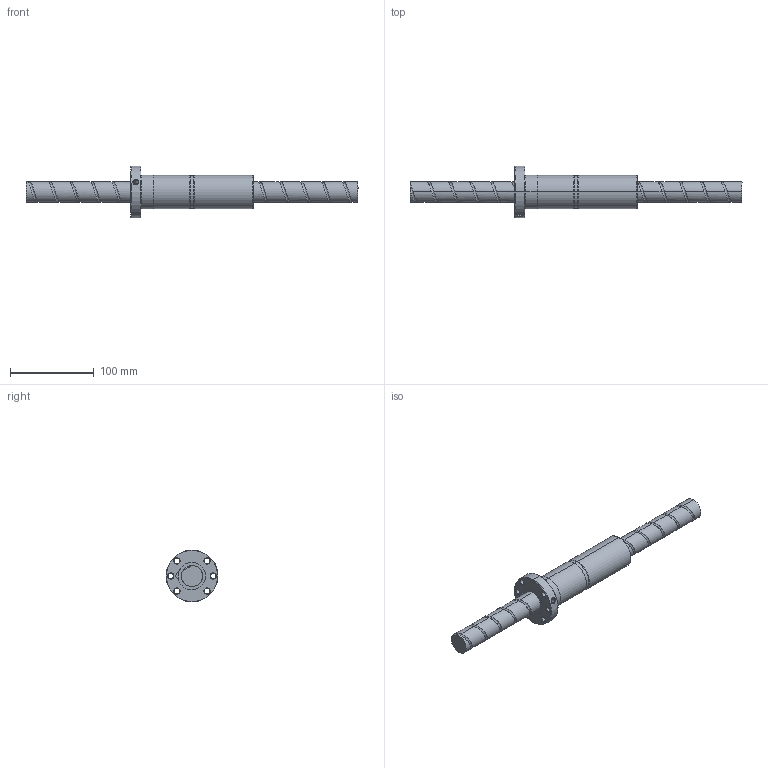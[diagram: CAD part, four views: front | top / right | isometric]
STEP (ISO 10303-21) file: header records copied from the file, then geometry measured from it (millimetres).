
FILE_DESCRIPTION (( 'STEP AP214' ), '1' );
FILE_NAME ('FDDC02525T2-B-A.STEP', '2010-07-06T03:22:34', ( 'XPAUTO' ), ( 'XPAUTO' ), 'SwSTEP 2.0', 'SolidWorks 2007', '' );
FILE_SCHEMA (( 'AUTOMOTIVE_DESIGN' ));
Length unit declared in the file: millimetre
Products named in the file (3): FDDC02525T2-B-A; FDDC02525T2-B-A.sldasm-Part-2_預設; FDDC02525T2-B-A.sldasm-Part-1_預設
Assembly tree (2 placements, depth 2):
  FDDC02525T2-B-A
    FDDC02525T2-B-A.sldasm-Part-2_預設
    FDDC02525T2-B-A.sldasm-Part-1_預設
Bounding box: 396 x 62 x 62 mm (x, y, z)
Volume: 317523.9 mm3; surface area: 70635.5 mm2
Topology: 2 solids, 2 shells, 131 faces, 323 edges, 201 vertices
Faces by surface type: cylinder 76, cone 24, plane 16, torus 10, bspline 5
Entity records: 25300 total; most frequent: CARTESIAN_POINT 22170, ORIENTED_EDGE 646, DIRECTION 627, EDGE_CURVE 323, AXIS2_PLACEMENT_3D 260, VERTEX_POINT 201, EDGE_LOOP 152, FACE_OUTER_BOUND 131
